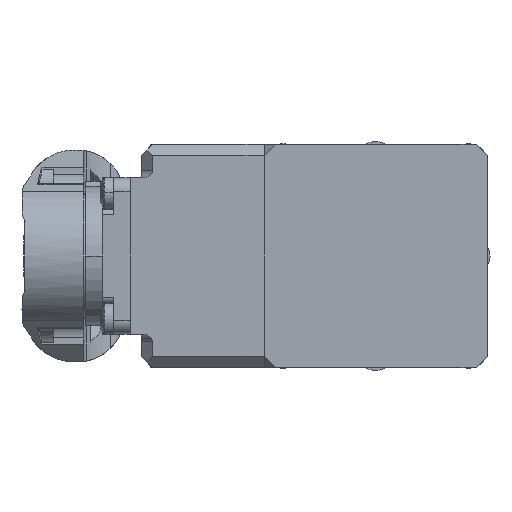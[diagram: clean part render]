
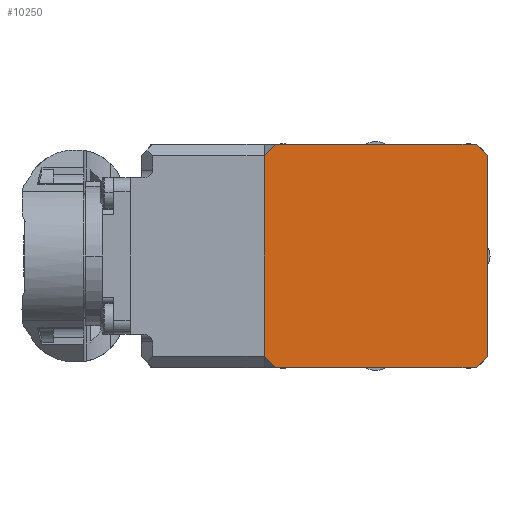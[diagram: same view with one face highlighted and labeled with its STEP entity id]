
A CAD part, left-side view. The second image highlights one B-rep face of the part: STEP entity #10250.
In plain terms, the highlighted planar face has unit normal (-1, 0, 0).
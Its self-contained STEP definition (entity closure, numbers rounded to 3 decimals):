
#222 = VERTEX_POINT ( 'NONE', #11625 ) ;
#1077 = CARTESIAN_POINT ( 'NONE',  ( -113., -20., 18. ) ) ;
#1539 = EDGE_CURVE ( 'NONE', #43425, #47364, #19609, .T. ) ;
#3231 = ORIENTED_EDGE ( 'NONE', *, *, #14806, .T. ) ;
#5009 = CARTESIAN_POINT ( 'NONE',  ( -113., 0., 0. ) ) ;
#5298 = CARTESIAN_POINT ( 'NONE',  ( -113., 20., 18. ) ) ;
#5595 = VECTOR ( 'NONE', #46210, 1000. ) ;
#6575 = VERTEX_POINT ( 'NONE', #5298 ) ;
#7951 = CARTESIAN_POINT ( 'NONE',  ( -113., -18., -20. ) ) ;
#8141 = VECTOR ( 'NONE', #43762, 1000. ) ;
#9558 = LINE ( 'NONE', #49546, #40084 ) ;
#10250 = ADVANCED_FACE ( 'NONE', ( #43481 ), #20831, .T. ) ;
#10609 = EDGE_CURVE ( 'NONE', #47364, #20944, #11774, .T. ) ;
#11083 = EDGE_CURVE ( 'NONE', #20944, #222, #17920, .T. ) ;
#11087 = AXIS2_PLACEMENT_3D ( 'NONE', #5009, #40858, #17001 ) ;
#11625 = CARTESIAN_POINT ( 'NONE',  ( -113., -18., 20. ) ) ;
#11774 = LINE ( 'NONE', #15405, #42273 ) ;
#13319 = ORIENTED_EDGE ( 'NONE', *, *, #45808, .T. ) ;
#14806 = EDGE_CURVE ( 'NONE', #6575, #25136, #38669, .T. ) ;
#15405 = CARTESIAN_POINT ( 'NONE',  ( -113., -20., -18. ) ) ;
#15895 = CARTESIAN_POINT ( 'NONE',  ( -113., 20., 18. ) ) ;
#16676 = VECTOR ( 'NONE', #44759, 1000. ) ;
#16749 = ORIENTED_EDGE ( 'NONE', *, *, #11083, .T. ) ;
#17001 = DIRECTION ( 'NONE',  ( 0., 0., 1. ) ) ;
#17223 = EDGE_CURVE ( 'NONE', #17873, #43425, #50290, .T. ) ;
#17873 = VERTEX_POINT ( 'NONE', #45245 ) ;
#17920 = LINE ( 'NONE', #1077, #16676 ) ;
#18402 = CARTESIAN_POINT ( 'NONE',  ( -113., -20., -18. ) ) ;
#19609 = LINE ( 'NONE', #45805, #39559 ) ;
#20831 = PLANE ( 'NONE',  #11087 ) ;
#20944 = VERTEX_POINT ( 'NONE', #25681 ) ;
#20947 = DIRECTION ( 'NONE',  ( 0., -1., 0. ) ) ;
#25136 = VERTEX_POINT ( 'NONE', #31242 ) ;
#25681 = CARTESIAN_POINT ( 'NONE',  ( -113., -20., 18. ) ) ;
#27387 = ORIENTED_EDGE ( 'NONE', *, *, #37895, .T. ) ;
#28165 = CARTESIAN_POINT ( 'NONE',  ( -113., 18., 20. ) ) ;
#29709 = DIRECTION ( 'NONE',  ( 0., 0.707, -0.707 ) ) ;
#30363 = VECTOR ( 'NONE', #20947, 1000. ) ;
#30398 = CARTESIAN_POINT ( 'NONE',  ( -113., 20., -18. ) ) ;
#31242 = CARTESIAN_POINT ( 'NONE',  ( -113., 20., -18. ) ) ;
#31929 = ORIENTED_EDGE ( 'NONE', *, *, #17223, .T. ) ;
#32484 = EDGE_LOOP ( 'NONE', ( #38513, #50257, #16749, #27387, #13319, #3231, #33547, #31929 ) ) ;
#33547 = ORIENTED_EDGE ( 'NONE', *, *, #49735, .T. ) ;
#35122 = CARTESIAN_POINT ( 'NONE',  ( -113., -18., 20. ) ) ;
#37895 = EDGE_CURVE ( 'NONE', #222, #40233, #49261, .T. ) ;
#38513 = ORIENTED_EDGE ( 'NONE', *, *, #1539, .T. ) ;
#38669 = LINE ( 'NONE', #15895, #8141 ) ;
#38700 = VECTOR ( 'NONE', #47112, 1000. ) ;
#39559 = VECTOR ( 'NONE', #49841, 1000. ) ;
#40084 = VECTOR ( 'NONE', #29709, 1000. ) ;
#40233 = VERTEX_POINT ( 'NONE', #28165 ) ;
#40794 = CARTESIAN_POINT ( 'NONE',  ( -113., 18., -20. ) ) ;
#40858 = DIRECTION ( 'NONE',  ( -1., 0., 0. ) ) ;
#42273 = VECTOR ( 'NONE', #43289, 1000. ) ;
#43289 = DIRECTION ( 'NONE',  ( 0., 0., 1. ) ) ;
#43425 = VERTEX_POINT ( 'NONE', #7951 ) ;
#43481 = FACE_OUTER_BOUND ( 'NONE', #32484, .T. ) ;
#43762 = DIRECTION ( 'NONE',  ( 0., 0., -1. ) ) ;
#44759 = DIRECTION ( 'NONE',  ( 0., 0.707, 0.707 ) ) ;
#45245 = CARTESIAN_POINT ( 'NONE',  ( -113., 18., -20. ) ) ;
#45805 = CARTESIAN_POINT ( 'NONE',  ( -113., -18., -20. ) ) ;
#45808 = EDGE_CURVE ( 'NONE', #40233, #6575, #9558, .T. ) ;
#46210 = DIRECTION ( 'NONE',  ( 0., -0.707, -0.707 ) ) ;
#47112 = DIRECTION ( 'NONE',  ( 0., 1., 0. ) ) ;
#47364 = VERTEX_POINT ( 'NONE', #18402 ) ;
#47940 = LINE ( 'NONE', #30398, #5595 ) ;
#49261 = LINE ( 'NONE', #35122, #38700 ) ;
#49546 = CARTESIAN_POINT ( 'NONE',  ( -113., 18., 20. ) ) ;
#49735 = EDGE_CURVE ( 'NONE', #25136, #17873, #47940, .T. ) ;
#49841 = DIRECTION ( 'NONE',  ( 0., -0.707, 0.707 ) ) ;
#50257 = ORIENTED_EDGE ( 'NONE', *, *, #10609, .T. ) ;
#50290 = LINE ( 'NONE', #40794, #30363 ) ;
